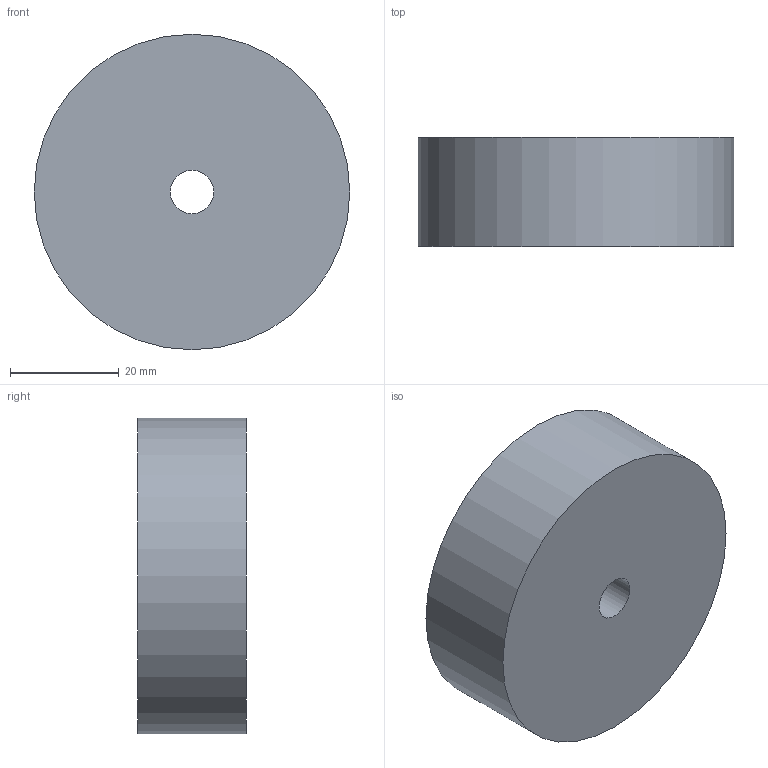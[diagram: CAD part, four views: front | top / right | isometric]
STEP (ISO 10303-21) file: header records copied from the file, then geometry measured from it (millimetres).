
FILE_DESCRIPTION(/* description */ ('Alibre Inc.'),/* implementation_level */ '2;1');
FILE_NAME(/* name */ 'export0',/* time_stamp */ '2007-09-07T08:17:39+02:00',/* author */ (''),/* organization */ (''),/* preprocessor_version */ 'ST-DEVELOPER v10',/* originating_system */ 'Alibre',/* authorisation */ '');
FILE_SCHEMA (('ALIBRE_SCHEMA','CONFIG_CONTROL_DESIGN'));
Length unit declared in the file: centimetre
Products named in the file (1): ID_1
Bounding box: 58 x 20 x 58 mm (x, y, z)
Volume: 51836.3 mm3; surface area: 9330.5 mm2
Topology: 1 solids, 1 shells, 4 faces, 6 edges, 4 vertices
Faces by surface type: plane 2, cylinder 2
Full cylindrical faces by diameter (mm): 8 x1, 58 x1
Entity records: 500 total; most frequent: CARTESIAN_POINT 42, DIRECTION 38, INTEGERVALUEPAIR 26, REFERENCEDEPENDENTUV 19, CONSTRAINTPAIRUV 18, REALVALUEPAIR 18, VECTOR 15, STRINGVALUEPAIR 12
